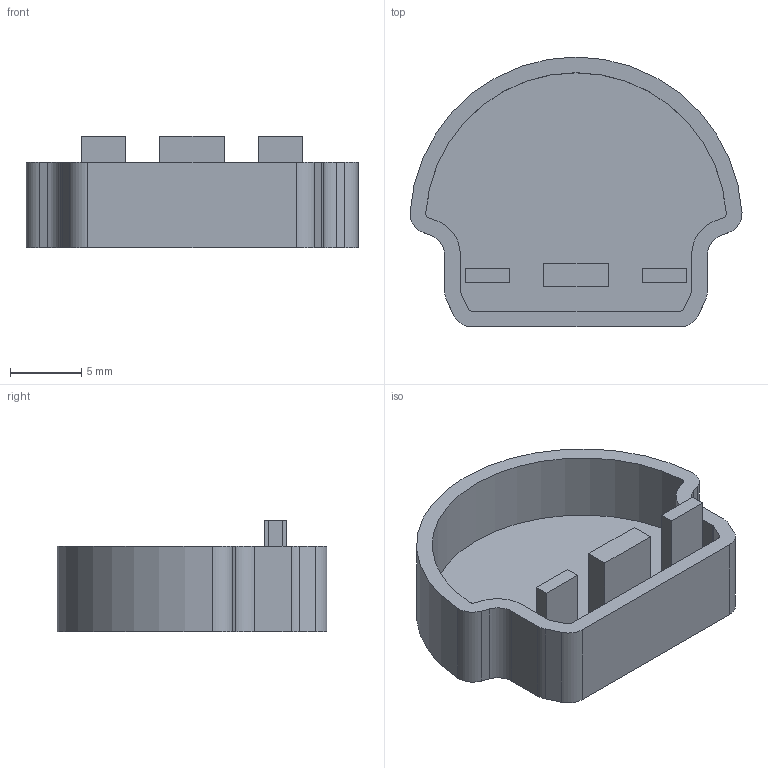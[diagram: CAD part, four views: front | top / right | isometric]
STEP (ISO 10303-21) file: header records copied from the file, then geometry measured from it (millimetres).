
FILE_DESCRIPTION (( 'STEP AP203' ), '1' );
FILE_NAME ('Halfround Endcap.STEP', '2026-04-20T14:04:33', ( '' ), ( '' ), 'SwSTEP 2.0', 'SolidWorks 2025', '' );
FILE_SCHEMA (( 'CONFIG_CONTROL_DESIGN' ));
Length unit declared in the file: millimetre
Products named in the file (1): Halfround Endcap
Bounding box: 23.26 x 18.9 x 7.8 mm (x, y, z)
Volume: 830.6 mm3; surface area: 1615.5 mm2
Topology: 1 solids, 1 shells, 50 faces, 132 edges, 88 vertices
Faces by surface type: plane 32, cylinder 18
Entity records: 1630 total; most frequent: CARTESIAN_POINT 274, DIRECTION 269, ORIENTED_EDGE 264, EDGE_CURVE 132, VECTOR 95, LINE 95, VERTEX_POINT 88, AXIS2_PLACEMENT_3D 87
